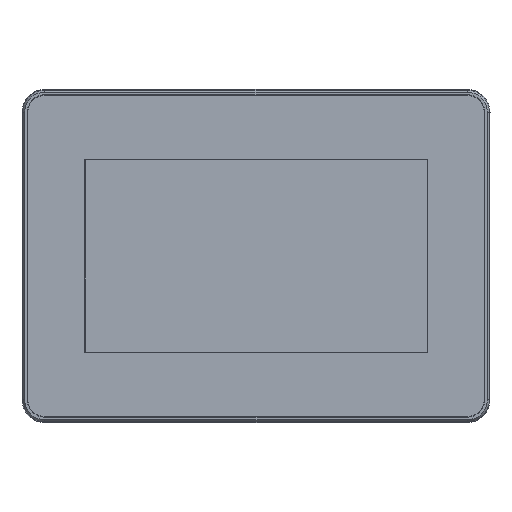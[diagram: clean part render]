
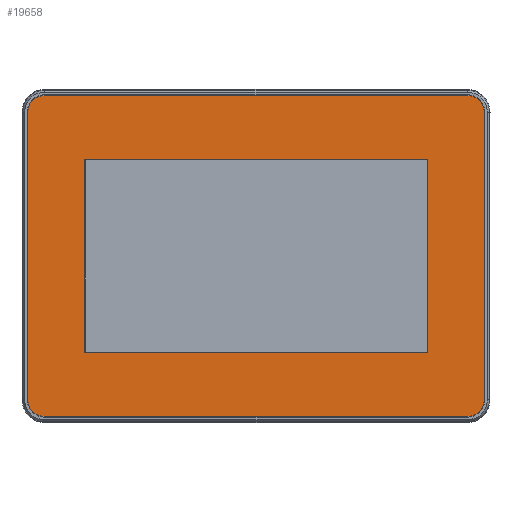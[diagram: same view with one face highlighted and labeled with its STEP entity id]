
A CAD part, top view. The second image highlights one B-rep face of the part: STEP entity #19658.
In plain terms, the highlighted planar face has unit normal (0, 0, 1).
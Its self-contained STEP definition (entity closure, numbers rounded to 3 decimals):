
#242 = DIRECTION ( 'NONE',  ( 1., 0., 0. ) ) ;
#364 = CARTESIAN_POINT ( 'NONE',  ( 28.213, 118.732, 64.111 ) ) ;
#869 = DIRECTION ( 'NONE',  ( 0., 0., 1. ) ) ;
#1908 = DIRECTION ( 'NONE',  ( 0., 0., 1. ) ) ;
#2185 = CARTESIAN_POINT ( 'NONE',  ( 201.42, 147.829, 64.111 ) ) ;
#4220 = VERTEX_POINT ( 'NONE', #63170 ) ;
#7553 = LINE ( 'NONE', #103030, #26913 ) ;
#8647 = CARTESIAN_POINT ( 'NONE',  ( 183.313, 31.812, 64.111 ) ) ;
#8668 = LINE ( 'NONE', #95176, #123667 ) ;
#10450 = EDGE_CURVE ( 'NONE', #87518, #122670, #7553, .T. ) ;
#11172 = DIRECTION ( 'NONE',  ( 0., -1., 0. ) ) ;
#11499 = EDGE_CURVE ( 'NONE', #115235, #99604, #102285, .T. ) ;
#12829 = AXIS2_PLACEMENT_3D ( 'NONE', #78624, #49982, #97702 ) ;
#13990 = CARTESIAN_POINT ( 'NONE',  ( 10.106, 2.715, 64.111 ) ) ;
#15314 = VERTEX_POINT ( 'NONE', #124731 ) ;
#16126 = CIRCLE ( 'NONE', #89252, 7.5 ) ;
#16849 = ORIENTED_EDGE ( 'NONE', *, *, #11499, .T. ) ;
#16958 = VECTOR ( 'NONE', #11172, 1000. ) ;
#17583 = ORIENTED_EDGE ( 'NONE', *, *, #79614, .T. ) ;
#18216 = DIRECTION ( 'NONE',  ( 1., 0., 0. ) ) ;
#18915 = CIRCLE ( 'NONE', #12829, 7.5 ) ;
#19658 = ADVANCED_FACE ( 'NONE', ( #89086, #98607 ), #77655, .T. ) ;
#20769 = EDGE_LOOP ( 'NONE', ( #70098, #77249, #115064, #79218 ) ) ;
#22758 = CARTESIAN_POINT ( 'NONE',  ( 208.92, 10.215, 64.111 ) ) ;
#25511 = CARTESIAN_POINT ( 'NONE',  ( 183.313, 118.732, 64.111 ) ) ;
#25743 = VECTOR ( 'NONE', #116265, 1000. ) ;
#26913 = VECTOR ( 'NONE', #124604, 1000. ) ;
#27904 = DIRECTION ( 'NONE',  ( 1., 0., 0. ) ) ;
#31558 = DIRECTION ( 'NONE',  ( 1., 0., 0. ) ) ;
#33507 = EDGE_CURVE ( 'NONE', #47451, #47494, #88716, .T. ) ;
#33536 = CARTESIAN_POINT ( 'NONE',  ( 201.42, 2.715, 64.111 ) ) ;
#33843 = AXIS2_PLACEMENT_3D ( 'NONE', #63358, #102136, #31558 ) ;
#35467 = LINE ( 'NONE', #63520, #111665 ) ;
#36809 = EDGE_CURVE ( 'NONE', #58935, #87518, #93921, .T. ) ;
#37791 = LINE ( 'NONE', #124934, #113921 ) ;
#38028 = CARTESIAN_POINT ( 'NONE',  ( 201.42, 147.829, 64.111 ) ) ;
#40414 = VERTEX_POINT ( 'NONE', #105944 ) ;
#41244 = VECTOR ( 'NONE', #123142, 1000. ) ;
#41314 = EDGE_CURVE ( 'NONE', #15314, #58935, #8668, .T. ) ;
#42706 = ORIENTED_EDGE ( 'NONE', *, *, #81655, .T. ) ;
#43290 = ORIENTED_EDGE ( 'NONE', *, *, #90628, .T. ) ;
#45370 = VERTEX_POINT ( 'NONE', #2185 ) ;
#47451 = VERTEX_POINT ( 'NONE', #33536 ) ;
#47494 = VERTEX_POINT ( 'NONE', #22758 ) ;
#47772 = EDGE_CURVE ( 'NONE', #122670, #15314, #87543, .T. ) ;
#48860 = LINE ( 'NONE', #38028, #25743 ) ;
#49982 = DIRECTION ( 'NONE',  ( 0., 0., 1. ) ) ;
#54632 = EDGE_CURVE ( 'NONE', #45370, #4220, #48860, .T. ) ;
#54644 = ORIENTED_EDGE ( 'NONE', *, *, #80298, .T. ) ;
#58935 = VERTEX_POINT ( 'NONE', #73543 ) ;
#63170 = CARTESIAN_POINT ( 'NONE',  ( 10.106, 147.829, 64.111 ) ) ;
#63358 = CARTESIAN_POINT ( 'NONE',  ( 201.42, 10.215, 64.111 ) ) ;
#63520 = CARTESIAN_POINT ( 'NONE',  ( 2.606, 140.329, 64.111 ) ) ;
#64433 = CARTESIAN_POINT ( 'NONE',  ( 2.606, 140.329, 64.111 ) ) ;
#64975 = CARTESIAN_POINT ( 'NONE',  ( 28.213, 118.732, 64.111 ) ) ;
#66101 = DIRECTION ( 'NONE',  ( 0., 0., 1. ) ) ;
#66613 = VERTEX_POINT ( 'NONE', #64433 ) ;
#66788 = ORIENTED_EDGE ( 'NONE', *, *, #54632, .T. ) ;
#70098 = ORIENTED_EDGE ( 'NONE', *, *, #36809, .F. ) ;
#73543 = CARTESIAN_POINT ( 'NONE',  ( 183.313, 31.812, 64.111 ) ) ;
#76618 = DIRECTION ( 'NONE',  ( 0., 1., 0. ) ) ;
#77249 = ORIENTED_EDGE ( 'NONE', *, *, #41314, .F. ) ;
#77655 = PLANE ( 'NONE',  #105665 ) ;
#78624 = CARTESIAN_POINT ( 'NONE',  ( 10.106, 140.329, 64.111 ) ) ;
#79218 = ORIENTED_EDGE ( 'NONE', *, *, #10450, .F. ) ;
#79549 = CARTESIAN_POINT ( 'NONE',  ( 10.106, 10.215, 64.111 ) ) ;
#79614 = EDGE_CURVE ( 'NONE', #4220, #66613, #18915, .T. ) ;
#80298 = EDGE_CURVE ( 'NONE', #40414, #45370, #16126, .T. ) ;
#81655 = EDGE_CURVE ( 'NONE', #99604, #47451, #110066, .T. ) ;
#85409 = ORIENTED_EDGE ( 'NONE', *, *, #33507, .T. ) ;
#87518 = VERTEX_POINT ( 'NONE', #25511 ) ;
#87543 = LINE ( 'NONE', #364, #16958 ) ;
#88716 = CIRCLE ( 'NONE', #33843, 7.5 ) ;
#89086 = FACE_OUTER_BOUND ( 'NONE', #108566, .T. ) ;
#89252 = AXIS2_PLACEMENT_3D ( 'NONE', #122689, #66101, #27904 ) ;
#90628 = EDGE_CURVE ( 'NONE', #66613, #115235, #35467, .T. ) ;
#92137 = AXIS2_PLACEMENT_3D ( 'NONE', #106486, #869, #242 ) ;
#92258 = DIRECTION ( 'NONE',  ( 1., 0., 0. ) ) ;
#92517 = EDGE_CURVE ( 'NONE', #47494, #40414, #37791, .T. ) ;
#93921 = LINE ( 'NONE', #8647, #41244 ) ;
#95176 = CARTESIAN_POINT ( 'NONE',  ( 28.213, 31.812, 64.111 ) ) ;
#97702 = DIRECTION ( 'NONE',  ( 1., 0., 0. ) ) ;
#98607 = FACE_BOUND ( 'NONE', #20769, .T. ) ;
#99604 = VERTEX_POINT ( 'NONE', #109762 ) ;
#100928 = VECTOR ( 'NONE', #92258, 1000. ) ;
#101669 = DIRECTION ( 'NONE',  ( 0., -1., 0. ) ) ;
#102136 = DIRECTION ( 'NONE',  ( 0., 0., 1. ) ) ;
#102285 = CIRCLE ( 'NONE', #92137, 7.5 ) ;
#103030 = CARTESIAN_POINT ( 'NONE',  ( 183.313, 118.732, 64.111 ) ) ;
#105665 = AXIS2_PLACEMENT_3D ( 'NONE', #79549, #1908, #118923 ) ;
#105944 = CARTESIAN_POINT ( 'NONE',  ( 208.92, 140.329, 64.111 ) ) ;
#106486 = CARTESIAN_POINT ( 'NONE',  ( 10.106, 10.215, 64.111 ) ) ;
#108566 = EDGE_LOOP ( 'NONE', ( #16849, #42706, #85409, #117267, #54644, #66788, #17583, #43290 ) ) ;
#109762 = CARTESIAN_POINT ( 'NONE',  ( 10.106, 2.715, 64.111 ) ) ;
#110066 = LINE ( 'NONE', #13990, #100928 ) ;
#111665 = VECTOR ( 'NONE', #101669, 1000. ) ;
#113921 = VECTOR ( 'NONE', #76618, 1000. ) ;
#115064 = ORIENTED_EDGE ( 'NONE', *, *, #47772, .F. ) ;
#115235 = VERTEX_POINT ( 'NONE', #124350 ) ;
#116265 = DIRECTION ( 'NONE',  ( -1., 0., 0. ) ) ;
#117267 = ORIENTED_EDGE ( 'NONE', *, *, #92517, .T. ) ;
#118923 = DIRECTION ( 'NONE',  ( 1., 0., 0. ) ) ;
#122670 = VERTEX_POINT ( 'NONE', #64975 ) ;
#122689 = CARTESIAN_POINT ( 'NONE',  ( 201.42, 140.329, 64.111 ) ) ;
#123142 = DIRECTION ( 'NONE',  ( 0., 1., 0. ) ) ;
#123667 = VECTOR ( 'NONE', #18216, 1000. ) ;
#124350 = CARTESIAN_POINT ( 'NONE',  ( 2.606, 10.215, 64.111 ) ) ;
#124604 = DIRECTION ( 'NONE',  ( -1., 0., 0. ) ) ;
#124731 = CARTESIAN_POINT ( 'NONE',  ( 28.213, 31.812, 64.111 ) ) ;
#124934 = CARTESIAN_POINT ( 'NONE',  ( 208.92, 10.215, 64.111 ) ) ;
